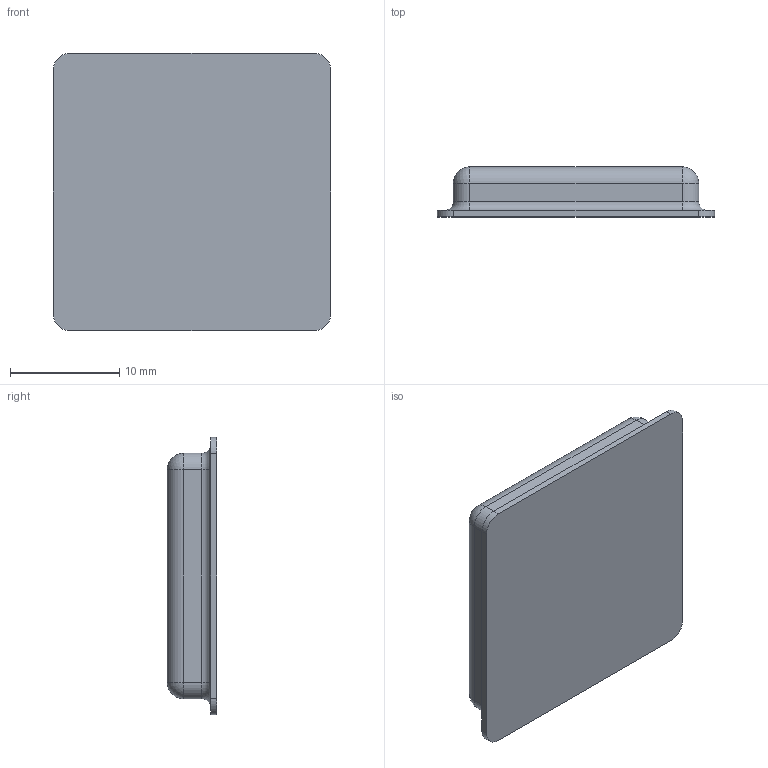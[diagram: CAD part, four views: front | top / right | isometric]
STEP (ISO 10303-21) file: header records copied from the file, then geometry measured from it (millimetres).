
FILE_DESCRIPTION(/* description */ (''),/* implementation_level */ '2;1');
FILE_NAME(/* name */ 'C:/Users/Mark/Downloads/STEP Files/BS36.step',/* time_stamp */ '2020-02-10T12:59:58-05:00',/* author */ (''),/* organization */ (''),/* preprocessor_version */ 'ST-DEVELOPER v18',/* originating_system */ 'Autodesk Translation Framework v8.12.0.6',/* authorisation */ '');
FILE_SCHEMA (('AUTOMOTIVE_DESIGN { 1 0 10303 214 3 1 1 }'));
Length unit declared in the file: inch
Products named in the file (1): BS36
Bounding box: 25.4 x 4.57 x 25.4 mm (x, y, z)
Volume: 2352.9 mm3; surface area: 1604 mm2
Topology: 1 solids, 1 shells, 35 faces, 76 edges, 44 vertices
Faces by surface type: cylinder 16, plane 11, sphere 4, torus 4
Entity records: 981 total; most frequent: DIRECTION 184, CARTESIAN_POINT 156, ORIENTED_EDGE 152, EDGE_CURVE 76, AXIS2_PLACEMENT_3D 72, VERTEX_POINT 44, LINE 40, VECTOR 40
